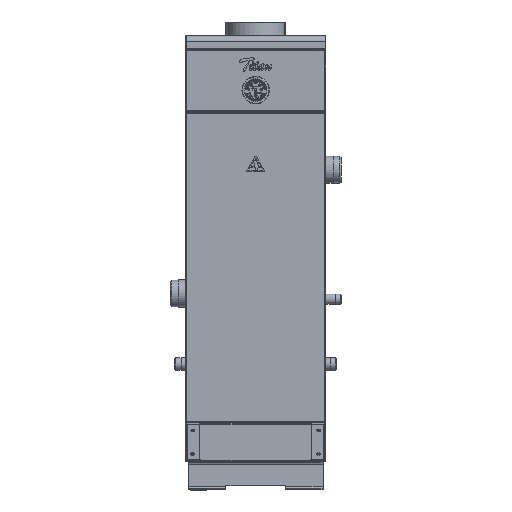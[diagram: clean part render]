
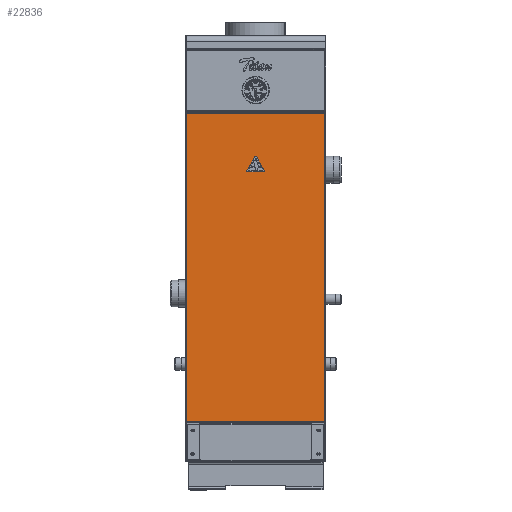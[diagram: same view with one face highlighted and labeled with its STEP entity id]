
A CAD part, top view. The second image highlights one B-rep face of the part: STEP entity #22836.
In plain terms, the highlighted planar face has unit normal (0, 0, 1) as drawn and (0, 0, -1) by its records, which use the part's own axes.
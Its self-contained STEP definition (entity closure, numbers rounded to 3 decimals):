
#22836=ADVANCED_FACE('',(#58708),#58710,.F.);
#58708=FACE_BOUND('',#58709,.T.);
#58709=EDGE_LOOP('',(#89001,#89002,#89003,#89004,#89005,#89006,#89007,#89008));
#58710=PLANE('',#58711);
#58711=AXIS2_PLACEMENT_3D('',#58712,#58713,#58714);
#58712=CARTESIAN_POINT('',(0.,0.,0.));
#58713=DIRECTION('',(0.,0.,1.));
#58714=DIRECTION('',(1.,0.,0.));
#89001=ORIENTED_EDGE('',*,*,#103697,.F.);
#89002=ORIENTED_EDGE('',*,*,#103675,.T.);
#89003=ORIENTED_EDGE('',*,*,#103698,.F.);
#89004=ORIENTED_EDGE('',*,*,#103680,.T.);
#89005=ORIENTED_EDGE('',*,*,#103699,.F.);
#89006=ORIENTED_EDGE('',*,*,#103687,.T.);
#89007=ORIENTED_EDGE('',*,*,#103700,.F.);
#89008=ORIENTED_EDGE('',*,*,#103692,.T.);
#103675=EDGE_CURVE('',#120462,#120464,#120466,.T.);
#103680=EDGE_CURVE('',#120474,#120472,#120475,.T.);
#103687=EDGE_CURVE('',#120482,#120484,#120486,.T.);
#103692=EDGE_CURVE('',#120494,#120492,#120495,.T.);
#103697=EDGE_CURVE('',#120462,#120492,#120502,.T.);
#103698=EDGE_CURVE('',#120474,#120464,#120503,.T.);
#103699=EDGE_CURVE('',#120482,#120472,#120504,.T.);
#103700=EDGE_CURVE('',#120494,#120484,#120505,.T.);
#120462=VERTEX_POINT('',#184123);
#120464=VERTEX_POINT('',#184127);
#120466=CIRCLE('',#184131,1.5);
#120472=VERTEX_POINT('',#184178);
#120474=VERTEX_POINT('',#184182);
#120475=CIRCLE('',#184183,1.5);
#120482=VERTEX_POINT('',#184233);
#120484=VERTEX_POINT('',#184237);
#120486=CIRCLE('',#184241,1.5);
#120492=VERTEX_POINT('',#184288);
#120494=VERTEX_POINT('',#184292);
#120495=CIRCLE('',#184293,1.5);
#120502=LINE('',#184343,#184344);
#120503=LINE('',#184346,#184347);
#120504=LINE('',#184349,#184350);
#120505=LINE('',#184352,#184353);
#184123=CARTESIAN_POINT('',(-145.382,69.9,0.));
#184127=CARTESIAN_POINT('',(-145.5,70.018,0.));
#184131=AXIS2_PLACEMENT_3D('',#184132,#184133,#184134);
#184132=CARTESIAN_POINT('',(-146.5,68.9,0.));
#184133=DIRECTION('',(0.,0.,1.));
#184134=DIRECTION('',(0.745,0.667,0.));
#184178=CARTESIAN_POINT('',(-145.382,719.4,0.));
#184182=CARTESIAN_POINT('',(-145.5,719.282,0.));
#184183=AXIS2_PLACEMENT_3D('',#184184,#184185,#184186);
#184184=CARTESIAN_POINT('',(-146.5,720.4,0.));
#184185=DIRECTION('',(0.,0.,1.));
#184186=DIRECTION('',(0.667,-0.745,0.));
#184233=CARTESIAN_POINT('',(145.382,719.4,0.));
#184237=CARTESIAN_POINT('',(145.5,719.282,0.));
#184241=AXIS2_PLACEMENT_3D('',#184242,#184243,#184244);
#184242=CARTESIAN_POINT('',(146.5,720.4,0.));
#184243=DIRECTION('',(0.,0.,1.));
#184244=DIRECTION('',(-0.745,-0.667,0.));
#184288=CARTESIAN_POINT('',(145.382,69.9,0.));
#184292=CARTESIAN_POINT('',(145.5,70.018,0.));
#184293=AXIS2_PLACEMENT_3D('',#184294,#184295,#184296);
#184294=CARTESIAN_POINT('',(146.5,68.9,0.));
#184295=DIRECTION('',(0.,0.,1.));
#184296=DIRECTION('',(-0.667,0.745,0.));
#184343=CARTESIAN_POINT('',(-145.382,69.9,0.));
#184344=VECTOR('',#184345,1.);
#184345=DIRECTION('',(1.,0.,0.));
#184346=CARTESIAN_POINT('',(-145.5,719.282,0.));
#184347=VECTOR('',#184348,1.);
#184348=DIRECTION('',(0.,-1.,0.));
#184349=CARTESIAN_POINT('',(145.382,719.4,0.));
#184350=VECTOR('',#184351,1.);
#184351=DIRECTION('',(-1.,0.,0.));
#184352=CARTESIAN_POINT('',(145.5,70.018,0.));
#184353=VECTOR('',#184354,1.);
#184354=DIRECTION('',(0.,1.,0.));
